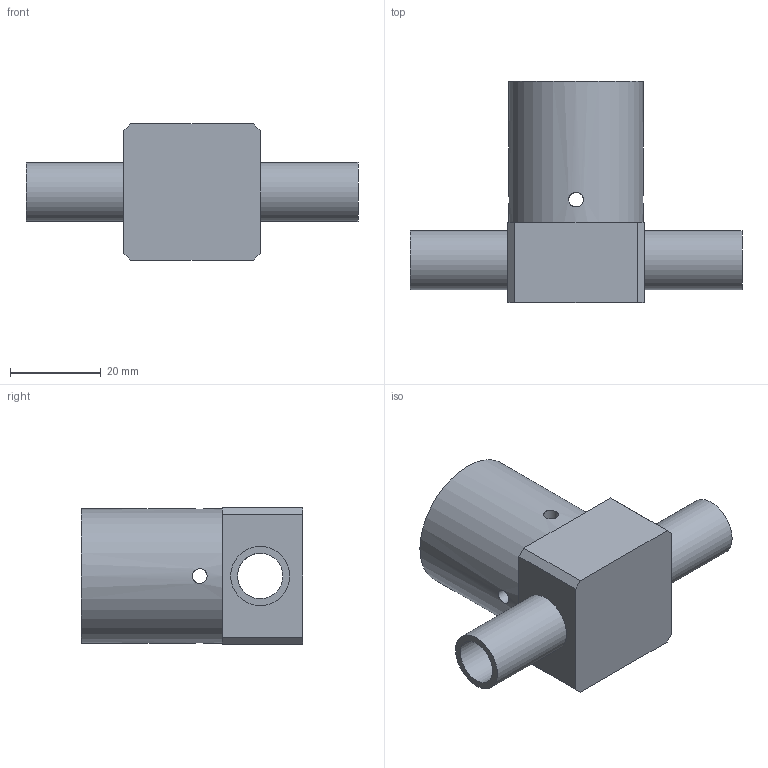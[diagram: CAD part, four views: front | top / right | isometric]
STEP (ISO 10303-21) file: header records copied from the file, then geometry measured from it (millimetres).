
FILE_DESCRIPTION(/* description */ ('STEP AP203'),/* implementation_level */ '2;1');
FILE_NAME(/* name */ 'E43362',/* time_stamp */ '2024-10-25T10:12:51+02:00',/* author */ ('License CC BY-ND 4.0'),/* organization */ ('CADENAS'),/* preprocessor_version */ 'ST-DEVELOPER v19.3',/* originating_system */ 'PARTsolutions',/* authorisation */ ' ');
FILE_SCHEMA (('CONFIG_CONTROL_DESIGN'));
Length unit declared in the file: millimetre
Products named in the file (1): E43362
Bounding box: 73 x 48.6 x 30 mm (x, y, z)
Volume: 27367.4 mm3; surface area: 12448.7 mm2
Topology: 1 solids, 1 shells, 28 faces, 73 edges, 47 vertices
Faces by surface type: plane 13, cylinder 10, cone 4, torus 1
Full cylindrical faces by diameter (mm): 3.25 x4, 10 x1, 13 x2, 16 x1, 18.631 x1, 29.6 x1
Entity records: 861 total; most frequent: CARTESIAN_POINT 234, DIRECTION 112, ORIENTED_EDGE 102, EDGE_LOOP 56, FACE_BOUND 56, EDGE_CURVE 51, AXIS2_PLACEMENT_3D 44, VERTEX_POINT 41
